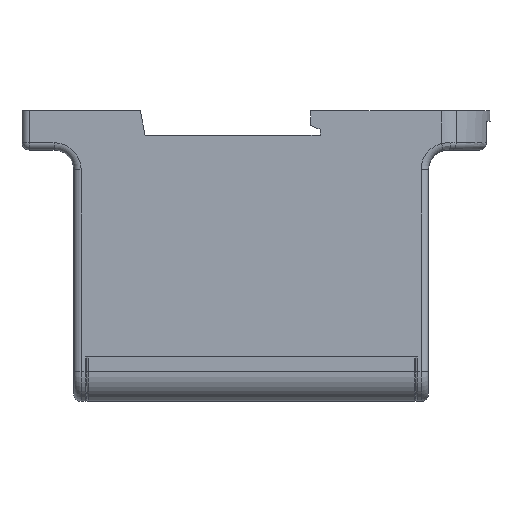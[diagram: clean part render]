
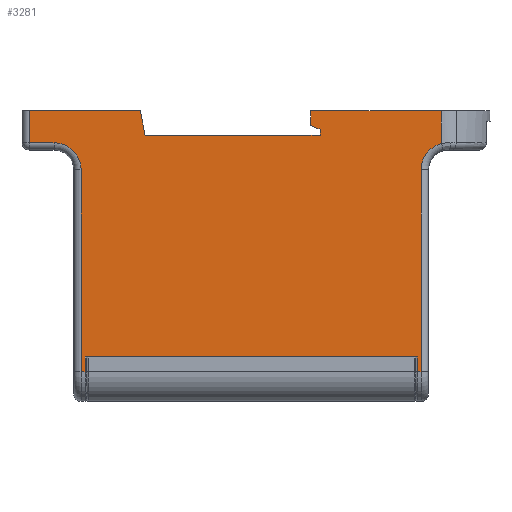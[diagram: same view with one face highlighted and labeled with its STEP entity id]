
A CAD part, front view. The second image highlights one B-rep face of the part: STEP entity #3281.
In plain terms, the highlighted planar face has unit normal (0, -1, 0).
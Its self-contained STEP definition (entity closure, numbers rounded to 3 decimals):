
#63=DIRECTION('',(1.,0.,0.));
#64=VECTOR('',#63,26.533);
#65=CARTESIAN_POINT('',(12.1,-14.75,0.));
#66=LINE('',#65,#64);
#115=DIRECTION('',(1.,0.,0.));
#116=VECTOR('',#115,22.5);
#117=CARTESIAN_POINT('',(-45.,-14.75,0.));
#118=LINE('',#117,#116);
#119=DIRECTION('',(0.,0.,1.));
#120=VECTOR('',#119,3.);
#121=CARTESIAN_POINT('',(-33.7,-14.75,-53.));
#122=LINE('',#121,#120);
#123=DIRECTION('',(1.,0.,0.));
#124=VECTOR('',#123,0.8);
#125=CARTESIAN_POINT('',(-34.5,-14.75,-53.));
#126=LINE('',#125,#124);
#127=DIRECTION('',(0.,0.,-1.));
#128=VECTOR('',#127,41.);
#129=CARTESIAN_POINT('',(-34.5,-14.75,-12.));
#130=LINE('',#129,#128);
#131=CARTESIAN_POINT('',(-40.,-14.75,-12.));
#132=DIRECTION('',(0.,1.,0.));
#133=DIRECTION('',(0.,0.,1.));
#134=AXIS2_PLACEMENT_3D('',#131,#132,#133);
#136=DIRECTION('',(1.,0.,0.));
#137=VECTOR('',#136,5.);
#138=CARTESIAN_POINT('',(-45.,-14.75,-6.5));
#139=LINE('',#138,#137);
#140=DIRECTION('',(0.,0.,-1.));
#141=VECTOR('',#140,6.5);
#142=CARTESIAN_POINT('',(-45.,-14.75,0.));
#143=LINE('',#142,#141);
#144=DIRECTION('',(-0.196,0.,0.981));
#145=VECTOR('',#144,5.099);
#146=CARTESIAN_POINT('',(-21.5,-14.75,-5.));
#147=LINE('',#146,#145);
#148=DIRECTION('',(-1.,0.,0.));
#149=VECTOR('',#148,35.5);
#150=CARTESIAN_POINT('',(14.,-14.75,-5.));
#151=LINE('',#150,#149);
#152=DIRECTION('',(0.,0.,-1.));
#153=VECTOR('',#152,1.2);
#154=CARTESIAN_POINT('',(14.,-14.75,-3.8));
#155=LINE('',#154,#153);
#156=DIRECTION('',(0.922,0.,-0.388));
#157=VECTOR('',#156,2.062);
#158=CARTESIAN_POINT('',(12.1,-14.75,-3.));
#159=LINE('',#158,#157);
#160=DIRECTION('',(0.,0.,-1.));
#161=VECTOR('',#160,3.);
#162=CARTESIAN_POINT('',(12.1,-14.75,0.));
#163=LINE('',#162,#161);
#164=CARTESIAN_POINT('',(40.,-14.75,-12.));
#165=DIRECTION('',(0.,1.,0.));
#166=DIRECTION('',(-1.,0.,0.));
#167=AXIS2_PLACEMENT_3D('',#164,#165,#166);
#169=DIRECTION('',(0.,0.,1.));
#170=VECTOR('',#169,41.);
#171=CARTESIAN_POINT('',(34.5,-14.75,-53.));
#172=LINE('',#171,#170);
#173=DIRECTION('',(1.,0.,0.));
#174=VECTOR('',#173,0.8);
#175=CARTESIAN_POINT('',(33.7,-14.75,-53.));
#176=LINE('',#175,#174);
#177=DIRECTION('',(0.,0.,-1.));
#178=VECTOR('',#177,3.);
#179=CARTESIAN_POINT('',(33.7,-14.75,-50.));
#180=LINE('',#179,#178);
#233=DIRECTION('',(1.,0.,0.));
#234=VECTOR('',#233,67.4);
#235=CARTESIAN_POINT('',(-33.7,-14.75,-50.));
#236=LINE('',#235,#234);
#1367=CARTESIAN_POINT('',(38.633,-14.75,
-6.673));
#1374=DIRECTION('',(0.,0.,-1.));
#1375=VECTOR('',#1374,6.673);
#1376=CARTESIAN_POINT('',(38.633,-14.75,0.));
#1377=LINE('',#1376,#1375);
#2435=CARTESIAN_POINT('',(38.633,-14.75,0.));
#2437=VERTEX_POINT('',#2435);
#2563=CARTESIAN_POINT('',(-22.5,-14.75,0.));
#2565=VERTEX_POINT('',#2563);
#2571=CARTESIAN_POINT('',(12.1,-14.75,0.));
#2573=VERTEX_POINT('',#2571);
#2587=CARTESIAN_POINT('',(-21.5,-14.75,-5.));
#2588=VERTEX_POINT('',#2587);
#2589=CARTESIAN_POINT('',(12.1,-14.75,-3.));
#2590=VERTEX_POINT('',#2589);
#2591=CARTESIAN_POINT('',(14.,-14.75,-3.8));
#2592=VERTEX_POINT('',#2591);
#2593=CARTESIAN_POINT('',(14.,-14.75,-5.));
#2594=VERTEX_POINT('',#2593);
#2975=VERTEX_POINT('',#1367);
#2977=CARTESIAN_POINT('',(34.5,-14.75,-12.));
#2978=VERTEX_POINT('',#2977);
#2981=CARTESIAN_POINT('',(34.5,-14.75,-53.));
#2982=VERTEX_POINT('',#2981);
#3033=CARTESIAN_POINT('',(-34.5,-14.75,-53.));
#3034=VERTEX_POINT('',#3033);
#3037=CARTESIAN_POINT('',(-34.5,-14.75,-12.));
#3038=VERTEX_POINT('',#3037);
#3041=CARTESIAN_POINT('',(-40.,-14.75,-6.5));
#3042=VERTEX_POINT('',#3041);
#3045=CARTESIAN_POINT('',(-45.,-14.75,-6.5));
#3046=VERTEX_POINT('',#3045);
#3060=CARTESIAN_POINT('',(-45.,-14.75,0.));
#3062=VERTEX_POINT('',#3060);
#3067=CARTESIAN_POINT('',(-33.7,-14.75,-53.));
#3068=CARTESIAN_POINT('',(-33.7,-14.75,-50.));
#3069=VERTEX_POINT('',#3067);
#3070=VERTEX_POINT('',#3068);
#3119=CARTESIAN_POINT('',(33.7,-14.75,-53.));
#3120=VERTEX_POINT('',#3119);
#3123=CARTESIAN_POINT('',(33.7,-14.75,-50.));
#3124=VERTEX_POINT('',#3123);
#3239=CARTESIAN_POINT('',(-46.5,-14.75,0.));
#3240=DIRECTION('',(0.,-1.,0.));
#3241=DIRECTION('',(1.,0.,0.));
#3242=AXIS2_PLACEMENT_3D('',#3239,#3240,#3241);
#3243=PLANE('',#3242);
#3245=ORIENTED_EDGE('',*,*,#3244,.F.);
#3247=ORIENTED_EDGE('',*,*,#3246,.F.);
#3249=ORIENTED_EDGE('',*,*,#3248,.F.);
#3251=ORIENTED_EDGE('',*,*,#3250,.F.);
#3253=ORIENTED_EDGE('',*,*,#3252,.F.);
#3255=ORIENTED_EDGE('',*,*,#3254,.F.);
#3256=ORIENTED_EDGE('',*,*,#3204,.T.);
#3258=ORIENTED_EDGE('',*,*,#3257,.F.);
#3260=ORIENTED_EDGE('',*,*,#3259,.F.);
#3262=ORIENTED_EDGE('',*,*,#3261,.F.);
#3264=ORIENTED_EDGE('',*,*,#3263,.F.);
#3265=ORIENTED_EDGE('',*,*,#3215,.F.);
#3266=ORIENTED_EDGE('',*,*,#3162,.T.);
#3268=ORIENTED_EDGE('',*,*,#3267,.T.);
#3270=ORIENTED_EDGE('',*,*,#3269,.F.);
#3272=ORIENTED_EDGE('',*,*,#3271,.F.);
#3274=ORIENTED_EDGE('',*,*,#3273,.F.);
#3276=ORIENTED_EDGE('',*,*,#3275,.F.);
#3278=ORIENTED_EDGE('',*,*,#3277,.F.);
#3279=EDGE_LOOP('',(#3245,#3247,#3249,#3251,#3253,#3255,#3256,#3258,#3260,#3262,
#3264,#3265,#3266,#3268,#3270,#3272,#3274,#3276,#3278));
#3280=FACE_OUTER_BOUND('',#3279,.F.);
#135=CIRCLE('',#134,5.5);
#168=CIRCLE('',#167,5.5);
#3162=EDGE_CURVE('',#2573,#2437,#66,.T.);
#3204=EDGE_CURVE('',#3062,#2565,#118,.T.);
#3215=EDGE_CURVE('',#2573,#2590,#163,.T.);
#3244=EDGE_CURVE('',#3069,#3070,#122,.T.);
#3246=EDGE_CURVE('',#3034,#3069,#126,.T.);
#3248=EDGE_CURVE('',#3038,#3034,#130,.T.);
#3250=EDGE_CURVE('',#3042,#3038,#135,.T.);
#3252=EDGE_CURVE('',#3046,#3042,#139,.T.);
#3254=EDGE_CURVE('',#3062,#3046,#143,.T.);
#3257=EDGE_CURVE('',#2588,#2565,#147,.T.);
#3259=EDGE_CURVE('',#2594,#2588,#151,.T.);
#3261=EDGE_CURVE('',#2592,#2594,#155,.T.);
#3263=EDGE_CURVE('',#2590,#2592,#159,.T.);
#3267=EDGE_CURVE('',#2437,#2975,#1377,.T.);
#3269=EDGE_CURVE('',#2978,#2975,#168,.T.);
#3271=EDGE_CURVE('',#2982,#2978,#172,.T.);
#3273=EDGE_CURVE('',#3120,#2982,#176,.T.);
#3275=EDGE_CURVE('',#3124,#3120,#180,.T.);
#3277=EDGE_CURVE('',#3070,#3124,#236,.T.);
#3281=ADVANCED_FACE('',(#3280),#3243,.T.);
